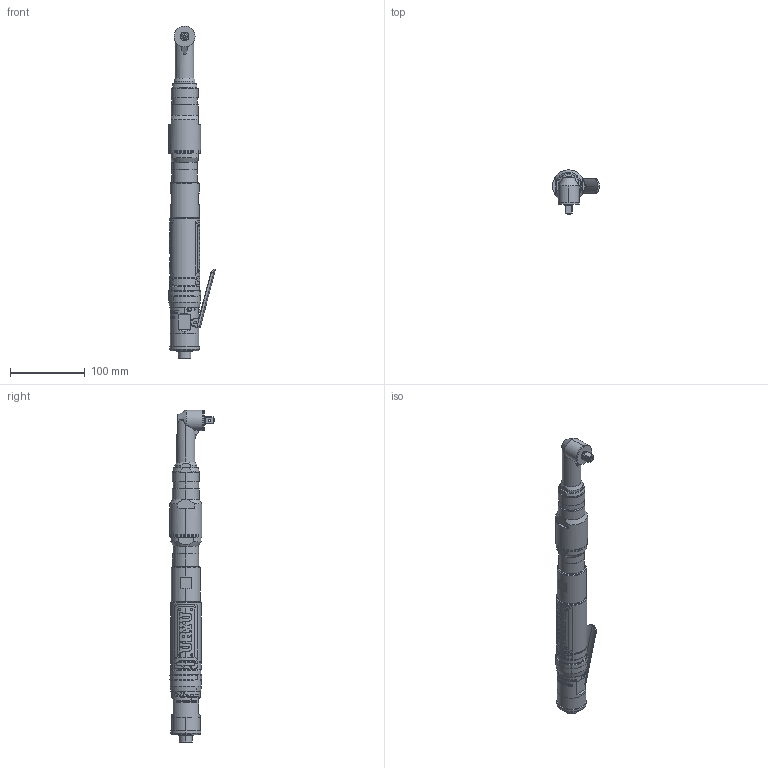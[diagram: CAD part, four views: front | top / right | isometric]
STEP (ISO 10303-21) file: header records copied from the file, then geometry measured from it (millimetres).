
FILE_DESCRIPTION (( 'STEP AP203' ), '1' );
FILE_NAME ('UAN-701R-60C.STEP', '2007-10-26T06:29:48', ( 'gikai-nt16' ), ( ' ' ), 'SwSTEP 2.0', 'SolidWorks 2003240', '' );
FILE_SCHEMA (( 'CONFIG_CONTROL_DESIGN' ));
Length unit declared in the file: millimetre
Products named in the file (10): 2583195_UAN-611R-30C_蹬怮椔; 2688405_UAN-701R-30C_蹬怮椔; 2682126_UAN-611R-30C_蹬怮椔; UAN-701R-60C; 2684416_UAN-701R-60C_蹬怮椔; 2683696_UAN-611R-30C_蹬怮椔; 2680255_UAN-701R-60C_蹬怮椔; 2597806_UAN-611R-30C_蹬怮椔; 2591140_UAN-611R-30C_蹬怮椔; 1961077_UAN-701R-30C_蹬怮椔
Assembly tree (9 placements, depth 2):
  UAN-701R-60C
    2682126_UAN-611R-30C_蹬怮椔
    2680255_UAN-701R-60C_蹬怮椔
    2591140_UAN-611R-30C_蹬怮椔
    2684416_UAN-701R-60C_蹬怮椔
    1961077_UAN-701R-30C_蹬怮椔
    2683696_UAN-611R-30C_蹬怮椔
    2583195_UAN-611R-30C_蹬怮椔
    2688405_UAN-701R-30C_蹬怮椔
    2597806_UAN-611R-30C_蹬怮椔
Bounding box: 62.88 x 59.5 x 444.7 mm (x, y, z)
Volume: 481061.5 mm3; surface area: 98618.3 mm2
Topology: 9 solids, 9 shells, 1000 faces, 2618 edges, 1722 vertices
Faces by surface type: plane 488, cylinder 359, bspline 98, cone 45, torus 8, sphere 2
Entity records: 40792 total; most frequent: CARTESIAN_POINT 16398, ORIENTED_EDGE 5232, DIRECTION 4375, EDGE_CURVE 2616, VERTEX_POINT 1722, AXIS2_PLACEMENT_3D 1596, VECTOR 1183, LINE 1183
